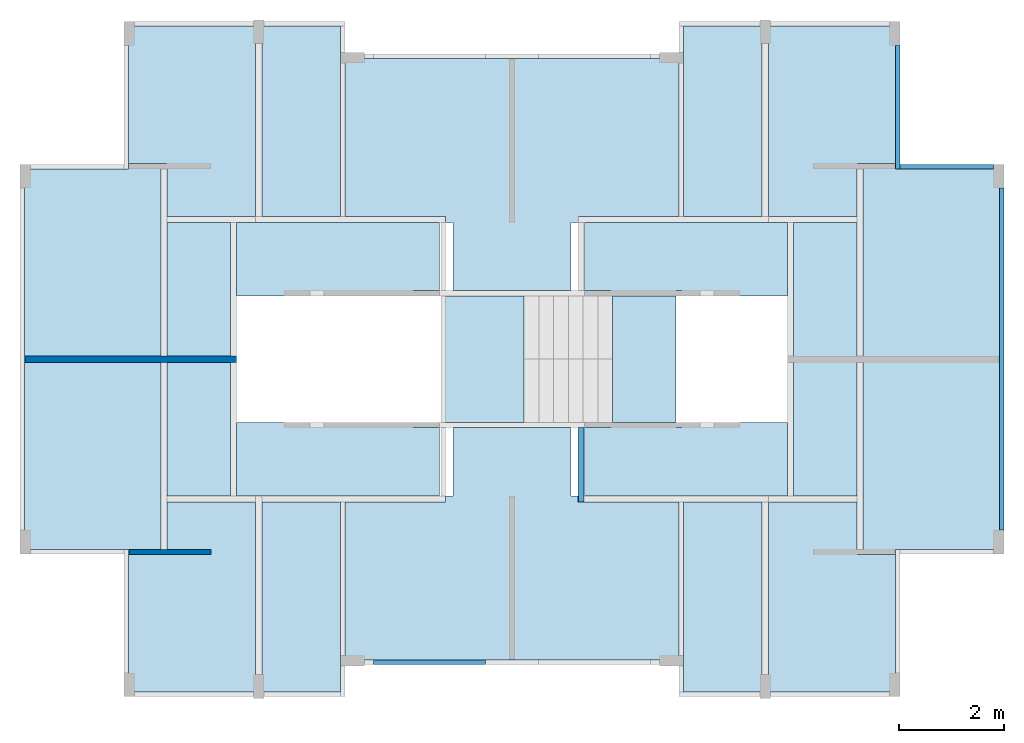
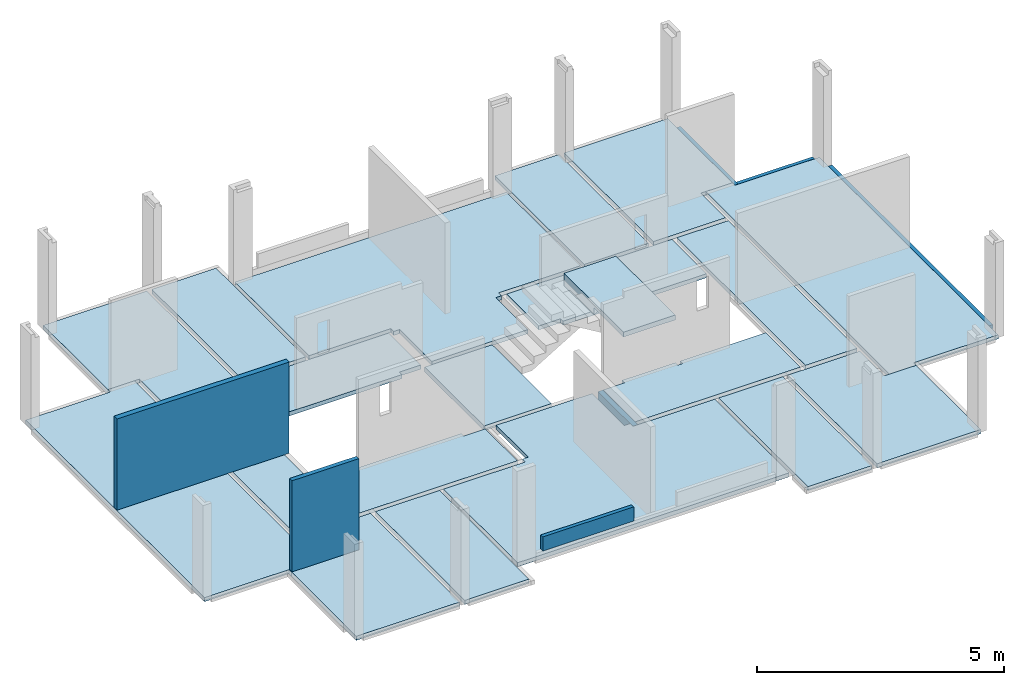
# One storey, part 3 of 6: 20 slabs, 4 beams, 3 walls, 1 element without a shape of its own.
"""IFC4 building model written with IfcOpenShell, lengths in metres."""

from ifc_helpers import new_model, entity, si_unit, converted_unit, derived_unit, direction, frame, frame_2d, origin, place, context, subcontext, project, spatial, polyline, indexed_curve, rectangle, outline, extrude, polygons, source, transform, mapped, material, type_object, type_shapes, element, aggregate, save


model = new_model("IFC4")

# Units and contexts
model_context = context("Model", 3, precision=1e-05, world=origin(), true_north=direction((6.123031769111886e-17, 1.0)))
body_context = subcontext(model_context, "Body", "Model", "MODEL_VIEW")
ifc_project = project(units=[si_unit("LENGTHUNIT", "METRE"), si_unit("AREAUNIT", "SQUARE_METRE"), si_unit("VOLUMEUNIT", "CUBIC_METRE"), converted_unit("PLANEANGLEUNIT", "DEGREE", entity("IfcRatioMeasure", 0.017453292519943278), si_unit("PLANEANGLEUNIT", "RADIAN"), dimensions=[0, 0, 0, 0, 0, 0, 0]), si_unit("MASSUNIT", "GRAM", prefix="KILO"), derived_unit("MASSDENSITYUNIT", [(si_unit("MASSUNIT", "GRAM", prefix="KILO"), 1), (si_unit("LENGTHUNIT", "METRE"), -3)]), derived_unit("IONCONCENTRATIONUNIT", [(si_unit("MASSUNIT", "GRAM", prefix="KILO"), 1), (si_unit("LENGTHUNIT", "METRE"), -3)]), derived_unit("MOMENTOFINERTIAUNIT", [(si_unit("LENGTHUNIT", "METRE"), 4)]), si_unit("TIMEUNIT", "SECOND"), si_unit("FREQUENCYUNIT", "HERTZ"), si_unit("THERMODYNAMICTEMPERATUREUNIT", "DEGREE_CELSIUS"), derived_unit("THERMALTRANSMITTANCEUNIT", [(si_unit("MASSUNIT", "GRAM", prefix="KILO"), 1), (si_unit("THERMODYNAMICTEMPERATUREUNIT", "KELVIN"), -1), (si_unit("TIMEUNIT", "SECOND"), -3)]), derived_unit("THERMALCONDUCTANCEUNIT", [(si_unit("MASSUNIT", "GRAM", prefix="KILO"), 1), (si_unit("THERMODYNAMICTEMPERATUREUNIT", "KELVIN"), -1), (si_unit("TIMEUNIT", "SECOND"), -3), (si_unit("LENGTHUNIT", "METRE"), 1)]), derived_unit("VOLUMETRICFLOWRATEUNIT", [(si_unit("LENGTHUNIT", "METRE"), 3), (si_unit("TIMEUNIT", "SECOND"), -1)]), derived_unit("MASSFLOWRATEUNIT", [(si_unit("MASSUNIT", "GRAM", prefix="KILO"), 1), (si_unit("TIMEUNIT", "SECOND"), -1)]), derived_unit("ROTATIONALFREQUENCYUNIT", [(si_unit("TIMEUNIT", "SECOND"), -1)]), si_unit("ELECTRICCURRENTUNIT", "AMPERE"), si_unit("ELECTRICVOLTAGEUNIT", "VOLT"), si_unit("POWERUNIT", "WATT"), si_unit("FORCEUNIT", "NEWTON", prefix="KILO"), si_unit("ILLUMINANCEUNIT", "LUX"), si_unit("LUMINOUSFLUXUNIT", "LUMEN"), si_unit("LUMINOUSINTENSITYUNIT", "CANDELA"), derived_unit("USERDEFINED", [(si_unit("MASSUNIT", "GRAM", prefix="KILO"), -1), (si_unit("LENGTHUNIT", "METRE"), -2), (si_unit("TIMEUNIT", "SECOND"), 3), (si_unit("LUMINOUSFLUXUNIT", "LUMEN"), 1)]), derived_unit("USERDEFINED", [(si_unit("MASSUNIT", "GRAM", prefix="KILO"), 1), (si_unit("TIMEUNIT", "SECOND"), -3), (si_unit("LENGTHUNIT", "METRE"), 3), (si_unit("ELECTRICCURRENTUNIT", "AMPERE"), -2)]), derived_unit("SOUNDPOWERUNIT", [(si_unit("MASSUNIT", "GRAM", prefix="KILO"), 1), (si_unit("TIMEUNIT", "SECOND"), -3), (si_unit("LENGTHUNIT", "METRE"), 2)]), derived_unit("SOUNDPRESSUREUNIT", [(si_unit("MASSUNIT", "GRAM", prefix="KILO"), 1), (si_unit("LENGTHUNIT", "METRE"), -1), (si_unit("TIMEUNIT", "SECOND"), -2)]), derived_unit("LINEARVELOCITYUNIT", [(si_unit("LENGTHUNIT", "METRE"), 1), (si_unit("TIMEUNIT", "SECOND"), -1)]), si_unit("PRESSUREUNIT", "PASCAL"), derived_unit("USERDEFINED", [(si_unit("MASSUNIT", "GRAM", prefix="KILO"), 1), (si_unit("LENGTHUNIT", "METRE"), -2), (si_unit("TIMEUNIT", "SECOND"), -2)]), derived_unit("LINEARFORCEUNIT", [(si_unit("MASSUNIT", "GRAM", prefix="KILO"), 1), (si_unit("TIMEUNIT", "SECOND"), -2)]), derived_unit("PLANARFORCEUNIT", [(si_unit("MASSUNIT", "GRAM", prefix="KILO"), 1), (si_unit("LENGTHUNIT", "METRE"), -1), (si_unit("TIMEUNIT", "SECOND"), -2)]), derived_unit("SPECIFICHEATCAPACITYUNIT", [(si_unit("THERMODYNAMICTEMPERATUREUNIT", "KELVIN"), -1), (si_unit("LENGTHUNIT", "METRE"), 2), (si_unit("TIMEUNIT", "SECOND"), -2)]), derived_unit("HEATINGVALUEUNIT", [(si_unit("LENGTHUNIT", "METRE"), 2), (si_unit("TIMEUNIT", "SECOND"), -2)]), derived_unit("VAPORPERMEABILITYUNIT", [(si_unit("LENGTHUNIT", "METRE"), -1), (si_unit("TIMEUNIT", "SECOND"), 1)]), derived_unit("DYNAMICVISCOSITYUNIT", [(si_unit("MASSUNIT", "GRAM", prefix="KILO"), 1), (si_unit("TIMEUNIT", "SECOND"), -1), (si_unit("LENGTHUNIT", "METRE"), -1)]), derived_unit("THERMALEXPANSIONCOEFFICIENTUNIT", [(si_unit("THERMODYNAMICTEMPERATUREUNIT", "KELVIN"), -1)]), derived_unit("MODULUSOFELASTICITYUNIT", [(si_unit("MASSUNIT", "GRAM", prefix="KILO"), 1), (si_unit("LENGTHUNIT", "METRE"), -1), (si_unit("TIMEUNIT", "SECOND"), -2)]), derived_unit("ISOTHERMALMOISTURECAPACITYUNIT", [(si_unit("LENGTHUNIT", "METRE"), 3), (si_unit("MASSUNIT", "GRAM", prefix="KILO"), -1)]), derived_unit("MOISTUREDIFFUSIVITYUNIT", [(si_unit("TIMEUNIT", "SECOND"), -1), (si_unit("LENGTHUNIT", "METRE"), 2)])], contexts=[model_context])

# Site, building, storey
site_placement = place(None, origin())
site = spatial("IfcSite", under=ifc_project, at=site_placement, Name="Default", CompositionType="ELEMENT")
building_placement = place(site_placement, origin())
building = spatial("IfcBuilding", under=site, at=building_placement, Name="Las nubes", CompositionType="ELEMENT")
storey_placement = place(building_placement, frame((0.0, 0.0, 4.700000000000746)))
storey = spatial("IfcBuildingStorey", under=building, at=storey_placement, Name="PISO 3", CompositionType="ELEMENT", Elevation=4.700000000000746)

# Beams
ifc_material_1 = material(Name="Concrete - Cast-in-Place Concrete - 28 MPa SLAB", Category="Materials")
beam_type_1 = type_object("IfcBeamType", Name="M_Concrete-Rectangular Beam:(0.085x0.10)", PredefinedType="BEAM", material=ifc_material_1)
shared_shape_1 = source(origin(), body_context, "Body", "SweptSolid", [
    extrude(outline(indexed_curve([(-0.042499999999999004, -0.05), (0.042500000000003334, -0.05), (0.042500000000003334, 0.05), (-0.042499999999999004, 0.05), (-0.042499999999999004, -0.05)], self_intersect=False)), frame((18.630000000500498, -9.675000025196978, 4.650000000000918), z_axis=(0.0, 1.0, 0.0), x_axis=(-1.0, 0.0, 0.0)), (0.0, 0.0, 1.0), 6.499999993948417),
])
type_shapes(beam_type_1, [shared_shape_1])
beam_1_placement = place(storey_placement, frame((0.0, 0.0, -4.700000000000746)))
element("IfcBeam", 1, at=beam_1_placement, inside=storey, type_object=beam_type_1, material=ifc_material_1, Name="M_Concrete-Rectangular Beam:(0.085x0.10)", ObjectType="M_Concrete-Rectangular Beam:(0.085x0.10)", PredefinedType="BEAM", context=body_context, shape_type="MappedRepresentation", body=[
    mapped(shared_shape_1, transform((0.0, 0.0, 0.0), scale=1.0)),
])
ifc_material_2 = material(Name="Concrete, Cast In Situ", Category="Materials")
beam_type_2 = type_object("IfcBeamType", Name="M_Concrete-Rectangular Beam:(0.085x0.10)", PredefinedType="BEAM", material=ifc_material_2)
shared_shape_2 = source(origin(), body_context, "Body", "SweptSolid", [
    extrude(outline(indexed_curve([(-0.042500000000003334, -0.05), (0.042499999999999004, -0.05), (0.042499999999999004, 0.05), (-0.042500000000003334, 0.05), (-0.042500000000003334, -0.05)], self_intersect=False)), frame((16.65500000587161, -2.8099983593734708, 4.650000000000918), z_axis=(0.0, 1.0, 0.0), x_axis=(-1.0, 0.0, 0.0)), (0.0, 0.0, 1.0), 2.34999833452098),
])
type_shapes(beam_type_2, [shared_shape_2])
beam_2_placement = place(storey_placement, frame((0.0, 0.0, -4.700000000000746)))
element("IfcBeam", 2, at=beam_2_placement, inside=storey, type_object=beam_type_2, material=ifc_material_2, Name="M_Concrete-Rectangular Beam:(0.085x0.10)", ObjectType="M_Concrete-Rectangular Beam:(0.085x0.10)", PredefinedType="BEAM", context=body_context, shape_type="MappedRepresentation", body=[
    mapped(shared_shape_2, transform((0.0, 0.0, 0.0), scale=1.0)),
])
beam_type_3 = type_object("IfcBeamType", Name="M_Concrete-Rectangular Beam:(0.115x0.25)", PredefinedType="BEAM", material=ifc_material_2)
shared_shape_3 = source(origin(), body_context, "Body", "Tessellation", [
    polygons([(0.11500000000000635, 1.4150000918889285, 0.25), (2.1657342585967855e-15, 1.4150000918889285, 0.25), (4.331468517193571e-15, 0.11500012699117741, 0.25), (0.00500000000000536, 0.11500012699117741, 0.24999999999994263), (0.00500000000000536, 0.0, 0.25), (0.11500000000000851, 0.0, 0.25), (0.11500000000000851, 0.1150000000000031, 0.25), (2.1657342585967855e-15, 1.4150000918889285, 0.0), (4.331468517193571e-15, 0.0, 0.0), (4.331468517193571e-15, 0.0, 0.14999999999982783), (4.331468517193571e-15, 0.11500012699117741, 0.14999999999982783), (0.11500000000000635, 1.4150000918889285, 0.0), (0.11500000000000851, 0.11500000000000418, 0.0), (0.11500000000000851, 0.0, 0.0), (0.11500000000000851, 0.0, 0.14999999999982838), (0.00500000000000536, 0.0, 0.14999999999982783), (0.00500000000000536, 0.11500012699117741, 0.14999999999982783)], [[[1, 2, 3, 4, 5, 6, 7]], [[2, 8, 9, 10, 11, 3]], [[8, 12, 13, 14, 9]], [[12, 1, 7, 6, 15, 14, 13]], [[8, 2, 1, 12]], [[16, 17, 11, 10]], [[17, 16, 5, 4]], [[17, 4, 3, 11]], [[9, 14, 15, 6, 5, 16, 10]]], closed=True),
])
type_shapes(beam_type_3, [shared_shape_3])
beam_3_placement = place(storey_placement, frame((10.577499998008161, -9.140000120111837, -0.24999999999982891)))
element("IfcBeam", 3, at=beam_3_placement, inside=storey, type_object=beam_type_3, material=ifc_material_2, Name="M_Concrete-Rectangular Beam:(0.115x0.25)", ObjectType="M_Concrete-Rectangular Beam:(0.115x0.25)", PredefinedType="BEAM", context=body_context, shape_type="MappedRepresentation", body=[
    mapped(shared_shape_3, transform((0.0, 0.0, 0.0), scale=1.0)),
])
ifc_material_3 = material(Name="Concrete - Cast-in-Place Concrete - 35 MPa", Category="Materials")
beam_type_4 = type_object("IfcBeamType", Name="M_Concrete-Rectangular Beam:(0.085x0.10)", PredefinedType="BEAM", material=ifc_material_3)
shared_shape_4 = source(origin(), body_context, "Body", "SweptSolid", [
    extrude(outline(indexed_curve([(-0.050000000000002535, -0.04249999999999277), (0.04999999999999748, -0.04250000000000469), (0.050000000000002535, 0.04249999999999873), (-0.04999999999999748, 0.04250000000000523), (-0.050000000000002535, -0.04249999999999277)], self_intersect=False)), frame((18.472500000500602, -2.7674983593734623, 4.650000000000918), z_axis=(-1.0, 0.0, 0.0), x_axis=(0.0, 0.0, -1.0)), (0.0, 0.0, 1.0), 1.7749999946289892),
])
type_shapes(beam_type_4, [shared_shape_4])
beam_4_placement = place(storey_placement, frame((0.0, 0.0, -4.700000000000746)))
element("IfcBeam", 4, at=beam_4_placement, inside=storey, type_object=beam_type_4, material=ifc_material_3, Name="M_Concrete-Rectangular Beam:(0.085x0.10)", ObjectType="M_Concrete-Rectangular Beam:(0.085x0.10)", PredefinedType="BEAM", context=body_context, shape_type="MappedRepresentation", body=[
    mapped(shared_shape_4, transform((0.0, 0.0, 0.0), scale=1.0)),
])

# Slabs
slab_type_1 = type_object("IfcSlabType", Name="Floor:PLACA ESTRUCTURAL 0.10", PredefinedType="FLOOR", material=ifc_material_1)
slab_1_placement = place(storey_placement, origin())
element("IfcSlab", 5, at=slab_1_placement, inside=storey, type_object=slab_type_1, material=ifc_material_1, Name="Floor:PLACA ESTRUCTURAL 0.10", ObjectType="Floor:PLACA ESTRUCTURAL 0.10", PredefinedType="FLOOR", context=body_context, shape_type="SweptSolid", body=[
    extrude(outline(indexed_curve([(-0.5383333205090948, -1.0516670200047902), (2.0766666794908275, -1.0516670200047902), (2.07666667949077, 1.368332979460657), (-1.5383333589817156, 1.3683329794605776), (-1.5383333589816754, -0.316665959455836), (-0.5383333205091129, -0.31666595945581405), (-0.5383333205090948, -1.0516670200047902)], self_intersect=False)), frame((3.0841670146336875, -2.1716667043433, 0.0), z_axis=(0.0, 0.0, -1.0), x_axis=(0.0, 1.0, 0.0)), (0.0, 0.0, 1.0), 0.1),
])
slab_2_placement = place(storey_placement, origin())
element("IfcSlab", 6, at=slab_2_placement, inside=storey, type_object=slab_type_1, material=ifc_material_1, Name="Floor:PLACA ESTRUCTURAL 0.10", ObjectType="Floor:PLACA ESTRUCTURAL 0.10", PredefinedType="FLOOR", context=body_context, shape_type="SweptSolid", body=[
    extrude(outline(indexed_curve([(-3.6149999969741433, -1.636250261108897), (3.614999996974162, -1.636250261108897), (3.614999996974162, 0.33874973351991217), (3.7150000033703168, 0.3387497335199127), (3.7150000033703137, 0.9587507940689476), (-3.7150000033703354, 0.9587507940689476), (-3.715000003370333, 0.33874973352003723), (-3.6149999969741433, 0.3387497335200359), (-3.6149999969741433, -1.636250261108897)], self_intersect=False)), frame((1.693750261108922, -6.425000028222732, 0.0), z_axis=(0.0, 0.0, -1.0), x_axis=(0.0, 1.0, 0.0)), (0.0, 0.0, 1.0), 0.1),
])
slab_3_placement = place(storey_placement, origin())
element("IfcSlab", 7, at=slab_3_placement, inside=storey, type_object=slab_type_1, material=ifc_material_1, Name="Floor:PLACA ESTRUCTURAL 0.10", ObjectType="Floor:PLACA ESTRUCTURAL 0.10", PredefinedType="FLOOR", context=body_context, shape_type="SweptSolid", body=[
    extrude(outline(indexed_curve([(-2.0766666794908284, -1.0516670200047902), (0.5383333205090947, -1.0516670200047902), (0.5383333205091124, -0.3166659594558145), (1.5383333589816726, -0.3166659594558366), (1.5383333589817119, 1.368332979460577), (-2.0766666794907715, 1.3683329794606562), (-2.0766666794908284, -1.0516670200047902)], self_intersect=False)), frame((3.0841670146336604, -10.67833335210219, 0.0), z_axis=(0.0, 0.0, -1.0), x_axis=(0.0, 1.0, 0.0)), (0.0, 0.0, 1.0), 0.1),
])
slab_4_placement = place(storey_placement, frame((2.767501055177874, -12.755000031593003, -0.09999999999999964)))
element("IfcSlab", 8, at=slab_4_placement, inside=storey, type_object=slab_type_1, material=ifc_material_1, Name="Floor:PLACA ESTRUCTURAL 0.10", ObjectType="Floor:PLACA ESTRUCTURAL 0.10", PredefinedType="FLOOR", context=body_context, shape_type="SweptSolid", body=[
    extrude(rectangle(XDim=1.2049989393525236, YDim=5.19999992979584, at=frame_2d((5.952499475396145, 0.0), x_axis=(1.0, 0.0))), frame((6.554998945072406, 6.33000000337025, 0.09999999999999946), z_axis=(0.0, 0.0, -1.0), x_axis=(-1.0, 0.0, 0.0)), (0.0, 0.0, 1.0), 0.1),
])
slab_5_placement = place(storey_placement, frame((2.767501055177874, -12.755000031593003, -0.09999999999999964)))
element("IfcSlab", 9, at=slab_5_placement, inside=storey, type_object=slab_type_1, Name="Floor:PLACA ESTRUCTURAL 0.10:2", ObjectType="Floor:PLACA ESTRUCTURAL 0.10", PredefinedType="FLOOR", context=body_context, shape_type="SweptSolid", body=[
    extrude(outline(polyline([(1.3749999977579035, 2.599999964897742), (1.3749999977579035, 1.300000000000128), (1.8799999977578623, 1.300000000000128), (1.8799999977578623, 1.2000000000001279), (5.235000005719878, 1.2000000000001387), (5.235000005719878, 2.5999999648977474), (1.3749999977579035, 2.599999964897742)])), frame((6.554998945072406, 6.33000000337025, 0.09999999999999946), z_axis=(0.0, 0.0, -1.0), x_axis=(-1.0, 0.0, 0.0)), (0.0, 0.0, 1.0), 0.1),
])
slab_6_placement = place(storey_placement, frame((2.767501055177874, -12.755000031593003, -0.09999999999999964)))
element("IfcSlab", 10, at=slab_6_placement, inside=storey, type_object=slab_type_1, Name="Floor:PLACA ESTRUCTURAL 0.10:3", ObjectType="Floor:PLACA ESTRUCTURAL 0.10", PredefinedType="FLOOR", context=body_context, shape_type="SweptSolid", body=[
    extrude(outline(polyline([(5.235000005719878, -1.2000000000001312), (1.8799999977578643, -1.2000000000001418), (1.8799999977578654, -1.3000000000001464), (1.3749999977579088, -1.3000000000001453), (1.3749999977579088, -2.600000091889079), (5.235000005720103, -2.600000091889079), (5.235000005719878, -1.2000000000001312)])), frame((6.554998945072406, 6.33000000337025, 0.09999999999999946), z_axis=(0.0, 0.0, -1.0), x_axis=(-1.0, 0.0, 0.0)), (0.0, 0.0, 1.0), 0.1),
])
slab_7_placement = place(storey_placement, frame((2.767501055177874, -12.755000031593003, -0.09999999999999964)))
element("IfcSlab", 11, at=slab_7_placement, inside=storey, type_object=slab_type_1, Name="Floor:PLACA ESTRUCTURAL 0.10:4", ObjectType="Floor:PLACA ESTRUCTURAL 0.10", PredefinedType="FLOOR", context=body_context, shape_type="SweptSolid", body=[
    extrude(rectangle(XDim=3.6149999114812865, YDim=1.499999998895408, at=frame_2d((4.00500000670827, 4.522500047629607), x_axis=(0.0, -1.0))), frame((6.554998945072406, 6.33000000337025, 0.09999999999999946), z_axis=(0.0, 0.0, -1.0), x_axis=(-1.0, 0.0, 0.0)), (0.0, 0.0, 1.0), 0.1),
])
slab_8_placement = place(storey_placement, frame((2.767501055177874, -12.755000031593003, -0.09999999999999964)))
element("IfcSlab", 12, at=slab_8_placement, inside=storey, type_object=slab_type_1, Name="Floor:PLACA ESTRUCTURAL 0.10:5", ObjectType="Floor:PLACA ESTRUCTURAL 0.10", PredefinedType="FLOOR", context=body_context, shape_type="SweptSolid", body=[
    extrude(rectangle(XDim=3.6149999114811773, YDim=1.4999999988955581, at=frame_2d((4.005000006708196, -4.522500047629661), x_axis=(0.0, -1.0))), frame((6.554998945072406, 6.33000000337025, 0.09999999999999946), z_axis=(0.0, 0.0, -1.0), x_axis=(-1.0, 0.0, 0.0)), (0.0, 0.0, 1.0), 0.1),
])
slab_9_placement = place(storey_placement, frame((2.767501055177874, -12.755000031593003, -0.09999999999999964)))
element("IfcSlab", 13, at=slab_9_placement, inside=storey, type_object=slab_type_1, Name="Floor:PLACA ESTRUCTURAL 0.10:6", ObjectType="Floor:PLACA ESTRUCTURAL 0.10", PredefinedType="FLOOR", context=body_context, shape_type="SweptSolid", body=[
    extrude(outline(polyline([(3.1700000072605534, 2.7150000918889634), (3.1700000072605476, 5.715000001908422), (-3.1700000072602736, 5.715000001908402), (-3.1700000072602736, 2.7150000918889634), (-1.2599999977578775, 2.7150000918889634), (-1.2599999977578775, 2.5999999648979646), (-1.1199999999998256, 2.5999999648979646), (-1.1199999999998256, 1.3000000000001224), (1.1200000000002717, 1.30000000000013), (1.1200000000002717, 2.5999999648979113), (1.2599999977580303, 2.5999999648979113), (1.2599999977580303, 2.7150000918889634), (3.1700000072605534, 2.7150000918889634)])), frame((6.554998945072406, 6.33000000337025, 0.09999999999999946), z_axis=(0.0, 0.0, -1.0), x_axis=(-1.0, 0.0, 0.0)), (0.0, 0.0, 1.0), 0.1),
])
slab_10_placement = place(storey_placement, frame((2.767501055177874, -12.755000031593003, -0.09999999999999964)))
element("IfcSlab", 14, at=slab_10_placement, inside=storey, type_object=slab_type_1, Name="Floor:PLACA ESTRUCTURAL 0.10:7", ObjectType="Floor:PLACA ESTRUCTURAL 0.10", PredefinedType="FLOOR", context=body_context, shape_type="SweptSolid", body=[
    extrude(outline(polyline([(1.2599999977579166, -2.599999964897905), (1.1200000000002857, -2.599999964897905), (1.1200000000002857, -1.3000000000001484), (-1.1199999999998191, -1.3000000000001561), (-1.1199999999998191, -2.5999999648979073), (-1.2599999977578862, -2.5999999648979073), (-1.2599999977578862, -2.7150000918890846), (-3.1700000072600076, -2.7150000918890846), (-3.170000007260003, -5.715000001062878), (3.1700000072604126, -5.715000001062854), (3.170000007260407, -2.715000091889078), (1.2599999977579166, -2.7150000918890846), (1.2599999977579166, -2.599999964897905)])), frame((6.554998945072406, 6.33000000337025, 0.09999999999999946), z_axis=(0.0, 0.0, -1.0), x_axis=(-1.0, 0.0, 0.0)), (0.0, 0.0, 1.0), 0.1),
])
slab_11_placement = place(storey_placement, frame((2.767501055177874, -12.755000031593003, -0.09999999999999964)))
element("IfcSlab", 15, at=slab_11_placement, inside=storey, type_object=slab_type_1, Name="Floor:PLACA ESTRUCTURAL 0.10:8", ObjectType="Floor:PLACA ESTRUCTURAL 0.10", PredefinedType="FLOOR", context=body_context, shape_type="SweptSolid", body=[
    extrude(rectangle(XDim=1.499999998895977, YDim=3.6149999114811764, at=frame_2d((-4.005000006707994, -4.522500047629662), x_axis=(1.0, 0.0))), frame((6.554998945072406, 6.33000000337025, 0.09999999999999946), z_axis=(0.0, 0.0, -1.0), x_axis=(-1.0, 0.0, 0.0)), (0.0, 0.0, 1.0), 0.1),
])
slab_12_placement = place(storey_placement, frame((2.767501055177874, -12.755000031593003, -0.09999999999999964)))
element("IfcSlab", 16, at=slab_12_placement, inside=storey, type_object=slab_type_1, Name="Floor:PLACA ESTRUCTURAL 0.10:9", ObjectType="Floor:PLACA ESTRUCTURAL 0.10", PredefinedType="FLOOR", context=body_context, shape_type="SweptSolid", body=[
    extrude(rectangle(XDim=1.499999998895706, YDim=3.614999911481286, at=frame_2d((-4.005000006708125, 4.522500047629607), x_axis=(1.0, 0.0))), frame((6.554998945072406, 6.33000000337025, 0.09999999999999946), z_axis=(0.0, 0.0, -1.0), x_axis=(-1.0, 0.0, 0.0)), (0.0, 0.0, 1.0), 0.1),
])
slab_13_placement = place(storey_placement, frame((2.767501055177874, -12.755000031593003, -0.09999999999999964)))
element("IfcSlab", 17, at=slab_13_placement, inside=storey, type_object=slab_type_1, Name="Floor:PLACA ESTRUCTURAL 0.10:10", ObjectType="Floor:PLACA ESTRUCTURAL 0.10", PredefinedType="FLOOR", context=body_context, shape_type="SweptSolid", body=[
    extrude(rectangle(XDim=1.2049989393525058, YDim=5.1999999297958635, at=frame_2d((-5.95249947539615, 0.0), x_axis=(1.0, 0.0))), frame((6.554998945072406, 6.33000000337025, 0.09999999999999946), z_axis=(0.0, 0.0, -1.0), x_axis=(-1.0, 0.0, 0.0)), (0.0, 0.0, 1.0), 0.1),
])
slab_14_placement = place(storey_placement, frame((2.767501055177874, -12.755000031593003, -0.09999999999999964)))
element("IfcSlab", 18, at=slab_14_placement, inside=storey, type_object=slab_type_1, Name="Floor:PLACA ESTRUCTURAL 0.10:11", ObjectType="Floor:PLACA ESTRUCTURAL 0.10", PredefinedType="FLOOR", context=body_context, shape_type="SweptSolid", body=[
    extrude(outline(polyline([(-3.1200000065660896, 1.2000000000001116), (-1.879999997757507, 1.2000000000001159), (-1.8799999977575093, 1.3000000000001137), (-1.374999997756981, 1.3000000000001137), (-1.374999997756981, 2.6000000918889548), (-5.235000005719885, 2.600000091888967), (-5.235000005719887, 1.2000000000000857), (-3.2350000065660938, 1.2000000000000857), (-3.2350000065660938, 1.300000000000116), (-3.1200000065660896, 1.300000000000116), (-3.1200000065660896, 1.2000000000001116)])), frame((6.554998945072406, 6.33000000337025, 0.09999999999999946), z_axis=(0.0, 0.0, -1.0), x_axis=(-1.0, 0.0, 0.0)), (0.0, 0.0, 1.0), 0.1),
])
slab_15_placement = place(storey_placement, frame((2.767501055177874, -12.755000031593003, -0.09999999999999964)))
element("IfcSlab", 19, at=slab_15_placement, inside=storey, type_object=slab_type_1, Name="Floor:PLACA ESTRUCTURAL 0.10:12", ObjectType="Floor:PLACA ESTRUCTURAL 0.10", PredefinedType="FLOOR", context=body_context, shape_type="SweptSolid", body=[
    extrude(outline(polyline([(-5.235000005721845, -2.6000000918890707), (-1.3749999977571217, -2.6000000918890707), (-1.3749999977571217, -1.3000000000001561), (-1.8799999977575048, -1.3000000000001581), (-1.8799999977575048, -1.2000000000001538), (-3.120000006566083, -1.2000000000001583), (-3.120000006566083, -1.300000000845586), (-3.2350000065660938, -1.300000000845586), (-3.2350000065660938, -1.1999999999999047), (-5.2350000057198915, -1.1999999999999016), (-5.235000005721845, -2.6000000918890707)])), frame((6.554998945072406, 6.33000000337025, 0.09999999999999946), z_axis=(0.0, 0.0, -1.0), x_axis=(-1.0, 0.0, 0.0)), (0.0, 0.0, 1.0), 0.1),
])
slab_16_placement = place(storey_placement, origin())
element("IfcSlab", 20, at=slab_16_placement, inside=storey, type_object=slab_type_1, material=ifc_material_1, Name="Floor:PLACA ESTRUCTURAL 0.10", ObjectType="Floor:PLACA ESTRUCTURAL 0.10", PredefinedType="FLOOR", context=body_context, shape_type="SweptSolid", body=[
    extrude(outline(indexed_curve([(-3.7150000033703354, -0.9587507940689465), (3.7150000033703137, -0.9587507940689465), (3.7150000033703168, -0.33874973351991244), (3.614999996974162, -0.33874973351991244), (3.614999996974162, 1.636250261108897), (-3.6149999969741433, 1.636250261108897), (-3.6149999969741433, -0.3387497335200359), (-3.715000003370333, -0.33874973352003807), (-3.7150000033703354, -0.9587507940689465)], self_intersect=False)), frame((16.95124973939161, -6.425000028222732, 0.0), z_axis=(0.0, 0.0, -1.0), x_axis=(0.0, 1.0, 0.0)), (0.0, 0.0, 1.0), 0.1),
])
slab_17_placement = place(storey_placement, origin())
element("IfcSlab", 21, at=slab_17_placement, inside=storey, type_object=slab_type_1, material=ifc_material_1, Name="Floor:PLACA ESTRUCTURAL 0.10", ObjectType="Floor:PLACA ESTRUCTURAL 0.10", PredefinedType="FLOOR", context=body_context, shape_type="SweptSolid", body=[
    extrude(outline(indexed_curve([(-2.0766666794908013, -1.368332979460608), (1.538333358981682, -1.368332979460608), (1.5383333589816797, 0.316665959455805), (0.5383333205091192, 0.3166659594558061), (0.5383333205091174, 1.0516670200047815), (-2.0766666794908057, 1.0516670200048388), (-2.0766666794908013, -1.368332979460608)], self_intersect=False)), frame((15.56083298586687, -10.67833335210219, 0.0), z_axis=(0.0, 0.0, -1.0), x_axis=(0.0, 1.0, 0.0)), (0.0, 0.0, 1.0), 0.1),
])
slab_18_placement = place(storey_placement, origin())
element("IfcSlab", 22, at=slab_18_placement, inside=storey, type_object=slab_type_1, material=ifc_material_1, Name="Floor:PLACA ESTRUCTURAL 0.10", ObjectType="Floor:PLACA ESTRUCTURAL 0.10", PredefinedType="FLOOR", context=body_context, shape_type="SweptSolid", body=[
    extrude(outline(indexed_curve([(-1.5383333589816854, -1.3683329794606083), (2.0766666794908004, -1.3683329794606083), (2.076666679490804, 1.0516670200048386), (-0.538333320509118, 1.0516670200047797), (-0.5383333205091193, 0.3166659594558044), (-1.538333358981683, 0.31666595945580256), (-1.5383333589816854, -1.3683329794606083)], self_intersect=False)), frame((15.56083298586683, -2.1716667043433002, 0.0), z_axis=(0.0, 0.0, -1.0), x_axis=(0.0, 1.0, 0.0)), (0.0, 0.0, 1.0), 0.1),
])

# Stair, slab
stair_type = type_object("IfcStairType", Name="Cast-In-Place Stair:B1080_Escalera Monolitica en Concreto", PredefinedType="HALF_TURN_STAIR")
stair_placement = place(storey_placement, origin())
stair = element("IfcStair", 23, at=stair_placement, inside=storey, type_object=stair_type, Name="Cast-In-Place Stair:Stair", ObjectType="Cast-In-Place Stair:B1080_Escalera Monolitica en Concreto", PredefinedType="HALF_TURN_STAIR")
ifc_material_4 = material(Name="Concrete, Cast-in-Place gray", Category="Materials")
slab_type_2 = type_object("IfcSlabType", Name="Monolithic Landing:120mm Thickness", PredefinedType="LANDING")
slab_19_placement = place(stair_placement, frame((11.232500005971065, -7.625000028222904, 0.0)))
slab_19 = element("IfcSlab", 24, at=slab_19_placement, type_object=slab_type_2, material=ifc_material_4, Name="Cast-In-Place Stair:Stair:524154 Landing 1", ObjectType="Monolithic Landing:120mm Thickness", PredefinedType="LANDING", context=body_context, shape_type="Tessellation", body=[
    polygons([(4.331468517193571e-15, 2.4000000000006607, 1.1750000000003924), (4.331468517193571e-15, 1.2000000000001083, 1.1750000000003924), (4.331468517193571e-15, 1.199000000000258, 1.1750000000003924), (4.331468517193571e-15, 0.0, 1.1750000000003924), (1.2100000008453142, 0.0, 1.1750000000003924), (1.2100000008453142, 2.4000000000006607, 1.1750000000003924), (0.3132138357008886, 2.4000000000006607, 1.1750000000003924), (1.2100000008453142, 0.0, 1.0550000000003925), (1.2100000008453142, 2.4000000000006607, 1.0550000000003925), (4.331468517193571e-15, 2.4000000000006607, 0.8672315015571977), (4.331468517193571e-15, 2.4000000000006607, 1.0071428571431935), (0.3132138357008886, 2.4000000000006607, 1.0550000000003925), (4.331468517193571e-15, 0.0, 1.0550000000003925), (0.3132138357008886, 1.2000000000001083, 1.0550000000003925), (4.331468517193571e-15, 1.199000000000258, 1.0550000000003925), (4.331468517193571e-15, 1.2000000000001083, 1.0550000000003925), (4.331468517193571e-15, 1.2000000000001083, 0.8672315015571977), (4.331468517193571e-15, 1.2000000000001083, 1.0071428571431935)], [[[1, 2, 3, 4, 5, 6, 7]], [[6, 5, 8, 9]], [[10, 11, 1, 7, 6, 9, 12]], [[5, 4, 13, 8]], [[14, 12, 9, 8, 13, 15, 16]], [[2, 1, 11, 10, 17, 18, 16]], [[3, 2, 16, 15]], [[12, 14, 17, 10]], [[14, 16, 18, 17]], [[4, 3, 15, 13]]], closed=True),
])
aggregate(stair, [slab_19])

# Slab
slab_type_3 = type_object("IfcSlabType", Name="Floor:PLACA ESTRUCTURAL 0.12", PredefinedType="FLOOR", material=ifc_material_2)
slab_20_placement = place(storey_placement, origin())
element("IfcSlab", 25, at=slab_20_placement, inside=storey, type_object=slab_type_3, material=ifc_material_2, Name="Floor:PLACA ESTRUCTURAL 0.12", ObjectType="Floor:PLACA ESTRUCTURAL 0.12", PredefinedType="FLOOR", context=body_context, shape_type="SweptSolid", body=[
    extrude(outline(indexed_curve([(-1.2000000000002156, -0.7875000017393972), (1.2000000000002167, -0.7875000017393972), (1.2000000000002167, 0.7875000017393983), (-1.2000000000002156, 0.7875000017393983), (-1.2000000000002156, -0.7875000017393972)], self_intersect=False)), frame((8.765000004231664, -6.425000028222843, 0.0), z_axis=(0.0, 0.0, -1.0), x_axis=(0.0, 1.0, 0.0)), (0.0, 0.0, 1.0), 0.11999999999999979),
])

# Walls
wall_type_1 = type_object("IfcWallType", Name="Basic Wall:MURO 12cm", PredefinedType="STANDARD")
wall_1_placement = place(storey_placement, frame((0.06750000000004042, -6.425000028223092, 0.0)))
element("IfcWall", 26, at=wall_1_placement, inside=storey, type_object=wall_type_1, material=ifc_material_3, Name="Basic Wall:MURO 12cm", ObjectType="Basic Wall:MURO 12cm", PredefinedType="NOTDEFINED", context=body_context, shape_type="SweptSolid", body=[
    extrude(outline(indexed_curve([(4.0199999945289, 0.060000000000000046), (-1.9797595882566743e-18, 0.060000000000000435), (1.9797595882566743e-18, -0.060000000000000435), (4.0199999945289, -0.06000000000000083), (4.0199999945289, 0.060000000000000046)], self_intersect=False)), origin(), (0.0, 0.0, 1.0), 2.2499999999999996),
])
wall_type_2 = type_object("IfcWallType", Name="Basic Wall:MURO 10cm", PredefinedType="STANDARD")
wall_2_placement = place(storey_placement, frame((3.602499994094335, -10.090000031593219, 0.0), z_axis=(0.0, 0.0, 1.0), x_axis=(-1.0, 0.0, 0.0)))
element("IfcWall", 27, at=wall_2_placement, inside=storey, type_object=wall_type_2, material=ifc_material_3, Name="Basic Wall:MURO 10cm", ObjectType="Basic Wall:MURO 10cm", PredefinedType="NOTDEFINED", context=body_context, shape_type="SweptSolid", body=[
    extrude(outline(indexed_curve([(1.5599999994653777, 0.049999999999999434), (-1.3794485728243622e-16, 0.04999999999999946), (1.3794485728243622e-16, -0.04999999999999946), (1.5599999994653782, -0.04999999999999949), (1.5599999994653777, 0.049999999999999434)], self_intersect=False)), origin(), (0.0, 0.0, 1.0), 2.2499999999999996),
])
wall_type_3 = type_object("IfcWallType", Name="Basic Wall:MURO .085cm", PredefinedType="STANDARD")
wall_3_placement = place(storey_placement, frame((6.692499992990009, -12.182500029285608, 0.15000000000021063)))
element("IfcWall", 28, at=wall_3_placement, inside=storey, type_object=wall_type_3, material=ifc_material_1, Name="Basic Wall:MURO .085cm", ObjectType="Basic Wall:MURO .085cm", PredefinedType="NOTDEFINED", context=body_context, shape_type="SweptSolid", body=[
    extrude(outline(indexed_curve([(2.1249999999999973, 0.04249999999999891), (-1.7146162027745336e-16, 0.042499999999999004), (1.7146162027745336e-16, -0.042499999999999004), (2.1249999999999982, -0.042499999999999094), (2.1249999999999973, 0.04249999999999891)], self_intersect=False)), origin(), (0.0, 0.0, 1.0), 0.35000000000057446),
])

save(model, "model.ifc")
